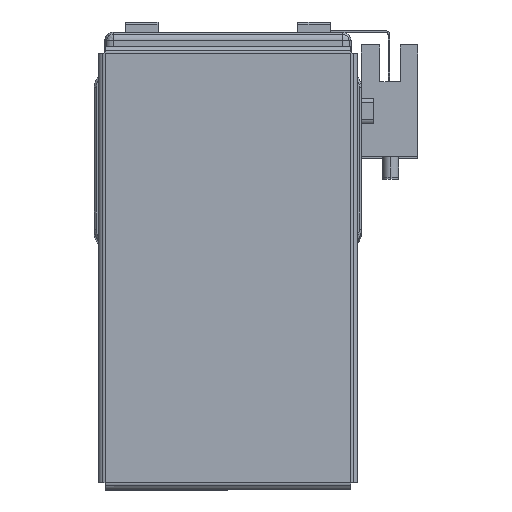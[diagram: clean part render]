
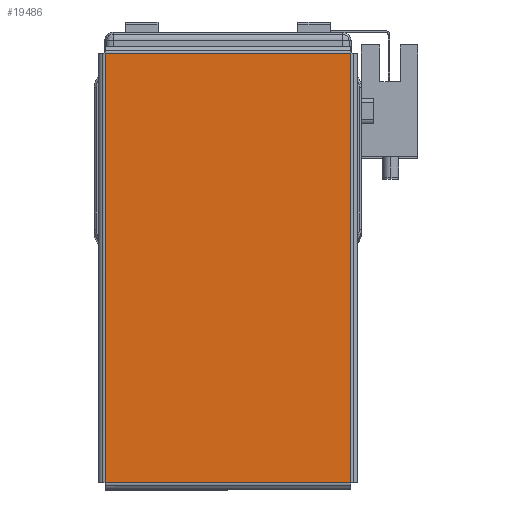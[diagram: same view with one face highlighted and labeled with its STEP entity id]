
A CAD part, top view. The second image highlights one B-rep face of the part: STEP entity #19486.
In plain terms, the highlighted planar face has unit normal (0, 0, 1) as drawn and (0, -1, 0) by its records, which use the part's own axes.
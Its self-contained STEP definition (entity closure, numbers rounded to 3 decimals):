
#1255 = AXIS2_PLACEMENT_3D ( 'NONE', #21485, #21486, #21500 ) ;
#5059 = EDGE_LOOP ( 'NONE', ( #12661, #12678, #12686, #12664 ) ) ;
#10141 = LINE ( 'NONE', #23830, #10147 ) ;
#10147 = VECTOR ( 'NONE', #23831, 1000. ) ;
#11272 = VECTOR ( 'NONE', #12181, 1000. ) ;
#11288 = LINE ( 'NONE', #12245, #11315 ) ;
#11315 = VECTOR ( 'NONE', #12210, 1000. ) ;
#11326 = LINE ( 'NONE', #12195, #11272 ) ;
#11333 = LINE ( 'NONE', #12277, #11347 ) ;
#11347 = VECTOR ( 'NONE', #12252, 1000. ) ;
#12181 = DIRECTION ( 'NONE',  ( -1., 0., 0. ) ) ;
#12195 = CARTESIAN_POINT ( 'NONE',  ( 52.293, -1., 29.863 ) ) ;
#12210 = DIRECTION ( 'NONE',  ( 0., 0., -1. ) ) ;
#12245 = CARTESIAN_POINT ( 'NONE',  ( -52.263, -1., 29.893 ) ) ;
#12252 = DIRECTION ( 'NONE',  ( 0., 0., 1. ) ) ;
#12277 = CARTESIAN_POINT ( 'NONE',  ( 52.263, -1., -29.893 ) ) ;
#12661 = ORIENTED_EDGE ( 'NONE', *, *, #27071, .T. ) ;
#12664 = ORIENTED_EDGE ( 'NONE', *, *, #27096, .T. ) ;
#12678 = ORIENTED_EDGE ( 'NONE', *, *, #27081, .T. ) ;
#12686 = ORIENTED_EDGE ( 'NONE', *, *, #27165, .T. ) ;
#19486 = ADVANCED_FACE ( 'NONE', ( #20373 ), #21478, .F. ) ;
#20373 = FACE_OUTER_BOUND ( 'NONE', #5059, .T. ) ;
#21478 = PLANE ( 'NONE',  #1255 ) ;
#21485 = CARTESIAN_POINT ( 'NONE',  ( 0., -1., 0. ) ) ;
#21486 = DIRECTION ( 'NONE',  ( 0., 1., 0. ) ) ;
#21500 = DIRECTION ( 'NONE',  ( 0., 0., 1. ) ) ;
#23830 = CARTESIAN_POINT ( 'NONE',  ( -52.293, -1., -29.863 ) ) ;
#23831 = DIRECTION ( 'NONE',  ( 1., 0., 0. ) ) ;
#27071 = EDGE_CURVE ( 'NONE', #28044, #28045, #11326, .T. ) ;
#27081 = EDGE_CURVE ( 'NONE', #28045, #28042, #11288, .T. ) ;
#27096 = EDGE_CURVE ( 'NONE', #28077, #28044, #11333, .T. ) ;
#27165 = EDGE_CURVE ( 'NONE', #28042, #28077, #10141, .T. ) ;
#28042 = VERTEX_POINT ( 'NONE', #31090 ) ;
#28044 = VERTEX_POINT ( 'NONE', #31091 ) ;
#28045 = VERTEX_POINT ( 'NONE', #31082 ) ;
#28077 = VERTEX_POINT ( 'NONE', #31168 ) ;
#31082 = CARTESIAN_POINT ( 'NONE',  ( -52.263, -1., 29.863 ) ) ;
#31090 = CARTESIAN_POINT ( 'NONE',  ( -52.263, -1., -29.863 ) ) ;
#31091 = CARTESIAN_POINT ( 'NONE',  ( 52.263, -1., 29.863 ) ) ;
#31168 = CARTESIAN_POINT ( 'NONE',  ( 52.263, -1., -29.863 ) ) ;
